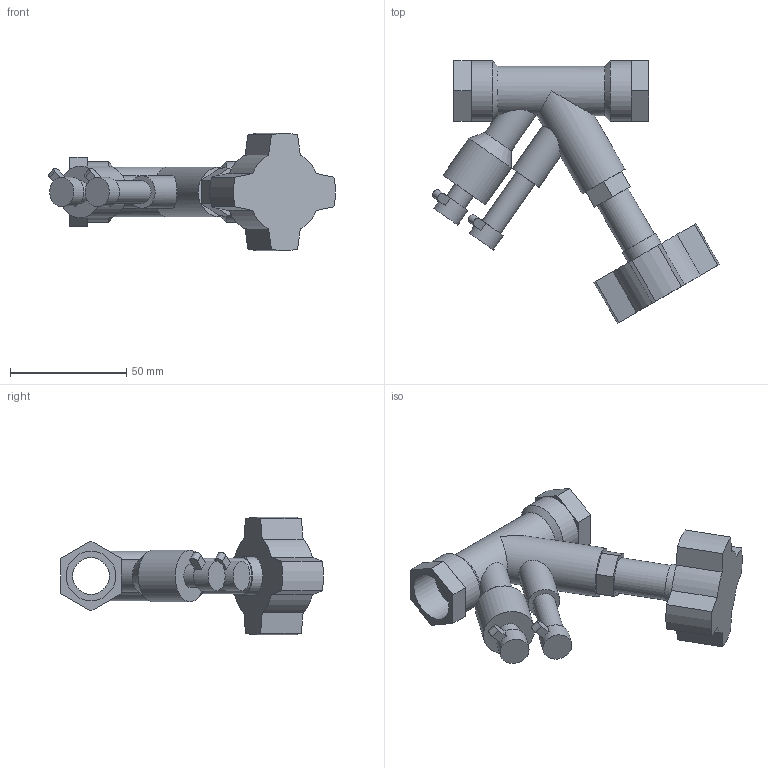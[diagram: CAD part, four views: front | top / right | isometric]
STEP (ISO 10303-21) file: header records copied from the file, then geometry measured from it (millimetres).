
FILE_DESCRIPTION(/* description */ ('VIC VALVE BALANCING TA SERIES 790 (FPT)-POTABLE WATER','CAx-IF Rec.Pracs.---Representation and Presentation of Product Manufacturing Information (PMI)---4.0---2014-10-13'),/* implementation_level */ '2;1');
FILE_NAME(/* name */ 'C:\Users\Vjadhav\Desktop\CAD for Inventor\1\790, 76X\STEP\Victaulic_IPS_Valve Balancing_TA Series 790 (FPT)-Potable Water\Victaulic_IPS_Valve Balancing_TA Series 790 (FPT)-Potable Water_0.5 (15).stp',/* time_stamp */ '2021-08-02T10:58:44+05:00',/* author */ ('cps_temp'),/* organization */ ('Victaulic'),/* preprocessor_version */ 'ST-DEVELOPER v17.2',/* originating_system */ 'Autodesk Inventor 2019',/* authorisation */ '');
FILE_SCHEMA (('AP242_MANAGED_MODEL_BASED_3D_ENGINEERING_MIM_LF { 1 0 10303 442 1 1 4 }'));
Length unit declared in the file: inch
Products named in the file (1): 790-0.5
Bounding box: 123.49 x 113.07 x 50.62 mm (x, y, z)
Volume: 84485.1 mm3; surface area: 27521.3 mm2
Topology: 1 solids, 1 shells, 88 faces, 221 edges, 146 vertices
Faces by surface type: plane 59, cylinder 26, cone 3
Full cylindrical faces by diameter (mm): 9.652 x2, 12.7 x2, 13.97 x2, 15.24 x1, 15.799 x1, 16.51 x1, 21.336 x4, 22.352 x1, 26.086 x2
Entity records: 2996 total; most frequent: CARTESIAN_POINT 576, DIRECTION 500, ORIENTED_EDGE 442, EDGE_CURVE 221, AXIS2_PLACEMENT_3D 183, VERTEX_POINT 146, LINE 134, VECTOR 134
